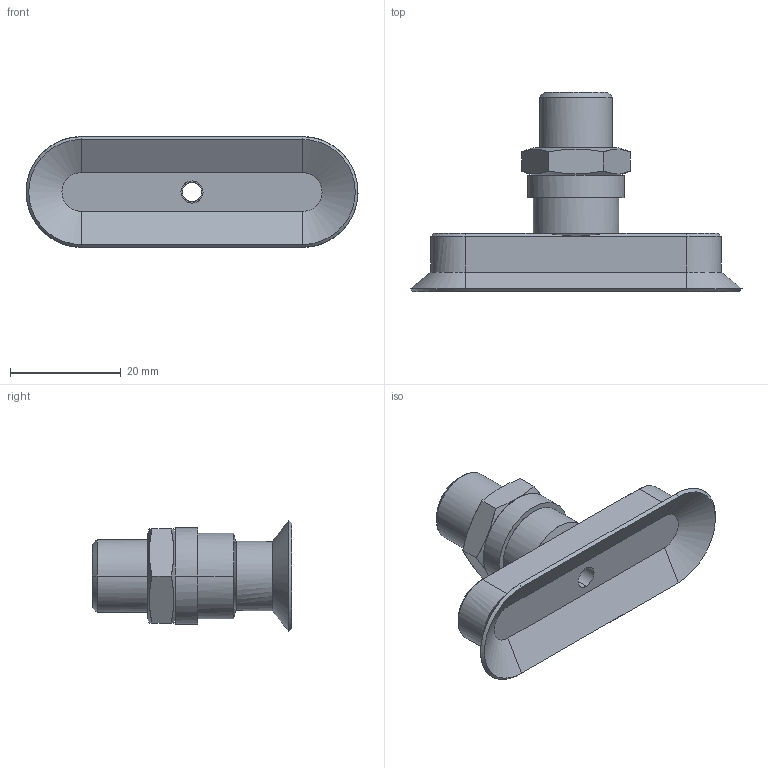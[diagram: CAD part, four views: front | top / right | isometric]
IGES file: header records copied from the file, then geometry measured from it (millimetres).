
Start section: --------------------------------------------------- ROBERT BOSCH GmbH, D-70442 Stuttgart Model-Name:      1820415126 Drawing-Name:    &dwg_name Format:          DIN &format Alle Rechte bei ROBERT BOSCH GmbH, auch fuer den Fall von Schutzrechtsanmeldungen. Jede Verfuegungs- befugnis, wie Kopier- und Weitergabe, bei uns. THIS DRAWING IS THE EXCLUSIVE PROPERTY OF ROBERT BOSCH GMBH. WITHOUT THEIR CONS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
Global section: file name: 1820415126.igs; native system: Pro/ENGINEER by Parametric Technology Corporation; preprocessor: 2011490; author: pma1hc; organization: Unknown; date: 20150505.141751; units: millimetre
Bounding box: 59.99 x 36 x 20 mm (x, y, z)
Surface area: 5108.9 mm2 (no closed solid volume)
Topology: 0 solids, 0 shells, 52 faces, 232 edges, 232 vertices
Faces by surface type: revolution 28, bspline 24
